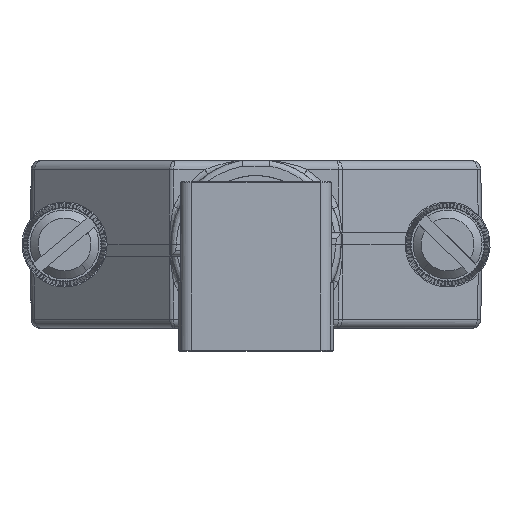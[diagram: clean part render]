
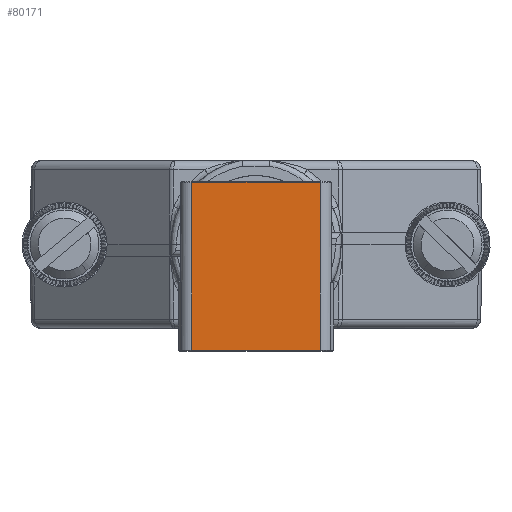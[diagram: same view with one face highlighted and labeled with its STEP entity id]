
A CAD part, left-side view. The second image highlights one B-rep face of the part: STEP entity #80171.
In plain terms, the highlighted planar face has unit normal (-1, 0, 0).
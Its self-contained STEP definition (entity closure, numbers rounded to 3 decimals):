
#2782 = VECTOR ( 'NONE', #54145, 1000. ) ;
#5111 = CARTESIAN_POINT ( 'NONE',  ( -106.668, 18.697, 30.491 ) ) ;
#9010 = CARTESIAN_POINT ( 'NONE',  ( -106.668, 19.847, 30.591 ) ) ;
#9801 = DIRECTION ( 'NONE',  ( 1., 0., 0. ) ) ;
#9984 = EDGE_CURVE ( 'NONE', #72277, #18482, #43524, .T. ) ;
#10134 = DIRECTION ( 'NONE',  ( 0., -1., 0. ) ) ;
#11281 = ORIENTED_EDGE ( 'NONE', *, *, #9984, .T. ) ;
#18063 = EDGE_CURVE ( 'NONE', #29225, #83974, #112527, .T. ) ;
#18482 = VERTEX_POINT ( 'NONE', #106669 ) ;
#24129 = LINE ( 'NONE', #83828, #51311 ) ;
#24638 = ORIENTED_EDGE ( 'NONE', *, *, #41912, .T. ) ;
#28301 = CARTESIAN_POINT ( 'NONE',  ( -106.668, 18.697, 30.591 ) ) ;
#29225 = VERTEX_POINT ( 'NONE', #28301 ) ;
#34261 = CARTESIAN_POINT ( 'NONE',  ( -106.668, 7.497, 45.191 ) ) ;
#36882 = EDGE_CURVE ( 'NONE', #83974, #72277, #24129, .T. ) ;
#39518 = DIRECTION ( 'NONE',  ( 0., 0., 1. ) ) ;
#39729 = CARTESIAN_POINT ( 'NONE',  ( -106.668, 7.497, 30.591 ) ) ;
#41225 = VECTOR ( 'NONE', #108103, 1000. ) ;
#41912 = EDGE_CURVE ( 'NONE', #18482, #29225, #48371, .T. ) ;
#43524 = LINE ( 'NONE', #75935, #2782 ) ;
#44527 = DIRECTION ( 'NONE',  ( 0., 1., 0. ) ) ;
#48371 = LINE ( 'NONE', #5111, #41225 ) ;
#50256 = ORIENTED_EDGE ( 'NONE', *, *, #36882, .T. ) ;
#51311 = VECTOR ( 'NONE', #39518, 1000. ) ;
#54145 = DIRECTION ( 'NONE',  ( 0., 1., 0. ) ) ;
#68418 = CARTESIAN_POINT ( 'NONE',  ( -106.668, 19.847, 45.291 ) ) ;
#72277 = VERTEX_POINT ( 'NONE', #34261 ) ;
#75935 = CARTESIAN_POINT ( 'NONE',  ( -106.668, 18.697, 45.191 ) ) ;
#76949 = PLANE ( 'NONE',  #106582 ) ;
#77500 = FACE_OUTER_BOUND ( 'NONE', #99837, .T. ) ;
#80171 = ADVANCED_FACE ( 'NONE', ( #77500 ), #76949, .F. ) ;
#83828 = CARTESIAN_POINT ( 'NONE',  ( -106.668, 7.497, 45.291 ) ) ;
#83974 = VERTEX_POINT ( 'NONE', #39729 ) ;
#98560 = ORIENTED_EDGE ( 'NONE', *, *, #18063, .T. ) ;
#99837 = EDGE_LOOP ( 'NONE', ( #50256, #11281, #24638, #98560 ) ) ;
#102862 = VECTOR ( 'NONE', #10134, 1000. ) ;
#106582 = AXIS2_PLACEMENT_3D ( 'NONE', #68418, #9801, #44527 ) ;
#106669 = CARTESIAN_POINT ( 'NONE',  ( -106.668, 18.697, 45.191 ) ) ;
#108103 = DIRECTION ( 'NONE',  ( 0., 0., -1. ) ) ;
#112527 = LINE ( 'NONE', #9010, #102862 ) ;
